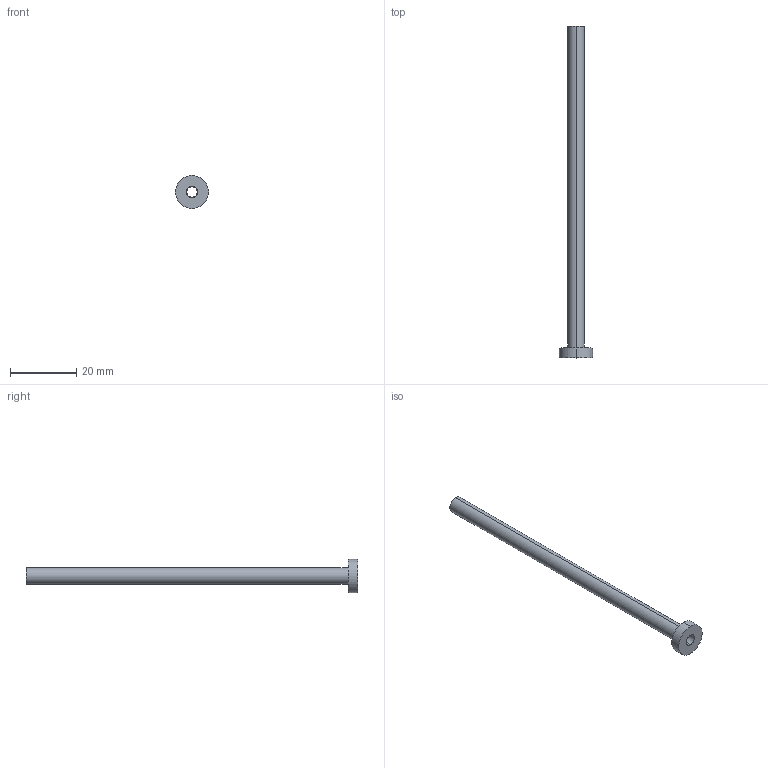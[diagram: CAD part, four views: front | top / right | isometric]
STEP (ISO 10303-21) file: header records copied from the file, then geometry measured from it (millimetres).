
FILE_DESCRIPTION (( 'STEP AP214' ), '1' );
FILE_NAME ('ET-ETN-3,2x100.STEP', '2019-12-16T14:48:13', ( 'August' ), ( '' ), 'SwSTEP 2.0', 'SolidWorks 2018', '' );
FILE_SCHEMA (( 'AUTOMOTIVE_DESIGN' ));
Length unit declared in the file: millimetre
Products named in the file (1): ET-ETN-3,2x100
Bounding box: 10 x 100 x 10 mm (x, y, z)
Volume: 1249.3 mm3; surface area: 2815.1 mm2
Topology: 1 solids, 1 shells, 13 faces, 26 edges, 16 vertices
Faces by surface type: cylinder 8, plane 3, cone 2
Entity records: 382 total; most frequent: DIRECTION 70, CARTESIAN_POINT 56, ORIENTED_EDGE 52, AXIS2_PLACEMENT_3D 30, EDGE_CURVE 26, EDGE_LOOP 16, VERTEX_POINT 16, CIRCLE 16
